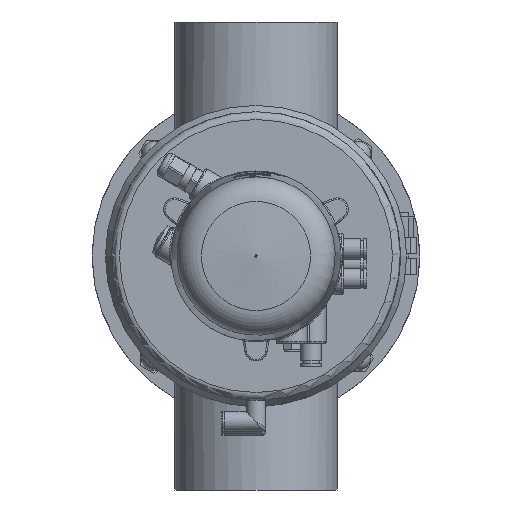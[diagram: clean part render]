
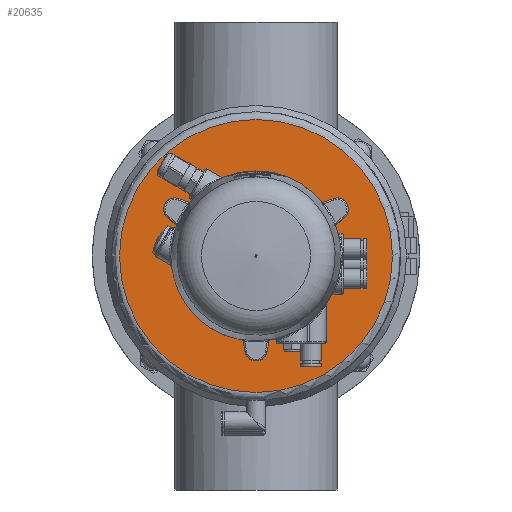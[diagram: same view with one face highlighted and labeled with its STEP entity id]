
A CAD part, front view. The second image highlights one B-rep face of the part: STEP entity #20635.
In plain terms, the highlighted planar face has unit normal (0, -1, 0) as drawn and (0, 1, 0) by its records, which use the part's own axes.
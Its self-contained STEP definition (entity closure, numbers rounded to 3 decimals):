
#159 = ORIENTED_EDGE ( 'NONE', *, *, #49443, .T. ) ;
#458 = DIRECTION ( 'NONE',  ( 0., 0., 1. ) ) ;
#1470 = CARTESIAN_POINT ( 'NONE',  ( 0., 298., -87.5 ) ) ;
#4346 = VERTEX_POINT ( 'NONE', #64542 ) ;
#4554 = DIRECTION ( 'NONE',  ( 0., 1., 0. ) ) ;
#5371 = CARTESIAN_POINT ( 'NONE',  ( 0., 298., -15.4 ) ) ;
#7364 = CIRCLE ( 'NONE', #30554, 2.1 ) ;
#9158 = FACE_BOUND ( 'NONE', #47207, .T. ) ;
#10920 = CIRCLE ( 'NONE', #26733, 87.5 ) ;
#11971 = EDGE_LOOP ( 'NONE', ( #47423 ) ) ;
#13968 = CIRCLE ( 'NONE', #22355, 2.1 ) ;
#14511 = CARTESIAN_POINT ( 'NONE',  ( 0., 298., 0. ) ) ;
#15631 = VERTEX_POINT ( 'NONE', #1470 ) ;
#18823 = CARTESIAN_POINT ( 'NONE',  ( -92.5, 298., 0. ) ) ;
#18964 = ORIENTED_EDGE ( 'NONE', *, *, #39143, .T. ) ;
#19154 = DIRECTION ( 'NONE',  ( 0., -1., 0. ) ) ;
#20635 = ADVANCED_FACE ( 'NONE', ( #28967, #9158, #23732, #49035 ), #35224, .F. ) ;
#22355 = AXIS2_PLACEMENT_3D ( 'NONE', #44201, #63620, #49808 ) ;
#22687 = DIRECTION ( 'NONE',  ( 0., 0., -1. ) ) ;
#23732 = FACE_OUTER_BOUND ( 'NONE', #62792, .T. ) ;
#26540 = ORIENTED_EDGE ( 'NONE', *, *, #29102, .F. ) ;
#26733 = AXIS2_PLACEMENT_3D ( 'NONE', #14511, #4554, #64743 ) ;
#26942 = AXIS2_PLACEMENT_3D ( 'NONE', #63068, #37827, #22687 ) ;
#28804 = CARTESIAN_POINT ( 'NONE',  ( 0., 298., -17.5 ) ) ;
#28967 = FACE_BOUND ( 'NONE', #11971, .T. ) ;
#29102 = EDGE_CURVE ( 'NONE', #47592, #47592, #13968, .T. ) ;
#30554 = AXIS2_PLACEMENT_3D ( 'NONE', #28804, #61600, #458 ) ;
#30958 = AXIS2_PLACEMENT_3D ( 'NONE', #18823, #19154, #44049 ) ;
#31125 = VERTEX_POINT ( 'NONE', #5371 ) ;
#34429 = EDGE_CURVE ( 'NONE', #31125, #31125, #7364, .T. ) ;
#35224 = PLANE ( 'NONE',  #30958 ) ;
#37827 = DIRECTION ( 'NONE',  ( 0., -1., 0. ) ) ;
#39143 = EDGE_CURVE ( 'NONE', #15631, #15631, #10920, .T. ) ;
#44049 = DIRECTION ( 'NONE',  ( 0., 0., -1. ) ) ;
#44201 = CARTESIAN_POINT ( 'NONE',  ( 0., 298., 17.5 ) ) ;
#47207 = EDGE_LOOP ( 'NONE', ( #26540 ) ) ;
#47423 = ORIENTED_EDGE ( 'NONE', *, *, #34429, .F. ) ;
#47592 = VERTEX_POINT ( 'NONE', #52494 ) ;
#48379 = EDGE_LOOP ( 'NONE', ( #159 ) ) ;
#49035 = FACE_BOUND ( 'NONE', #48379, .T. ) ;
#49443 = EDGE_CURVE ( 'NONE', #4346, #4346, #55286, .T. ) ;
#49808 = DIRECTION ( 'NONE',  ( 0., 0., 1. ) ) ;
#52494 = CARTESIAN_POINT ( 'NONE',  ( 0., 298., 19.6 ) ) ;
#55286 = CIRCLE ( 'NONE', #26942, 10. ) ;
#61600 = DIRECTION ( 'NONE',  ( 0., 1., 0. ) ) ;
#62792 = EDGE_LOOP ( 'NONE', ( #18964 ) ) ;
#63068 = CARTESIAN_POINT ( 'NONE',  ( 0., 298., 0. ) ) ;
#63620 = DIRECTION ( 'NONE',  ( 0., 1., 0. ) ) ;
#64542 = CARTESIAN_POINT ( 'NONE',  ( 0., 298., -10. ) ) ;
#64743 = DIRECTION ( 'NONE',  ( 0., 0., -1. ) ) ;
